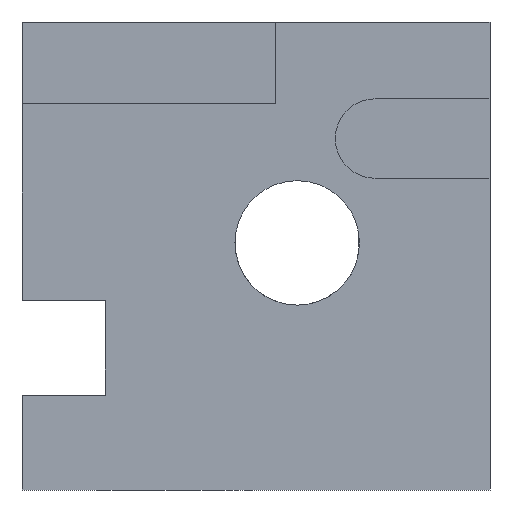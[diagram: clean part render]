
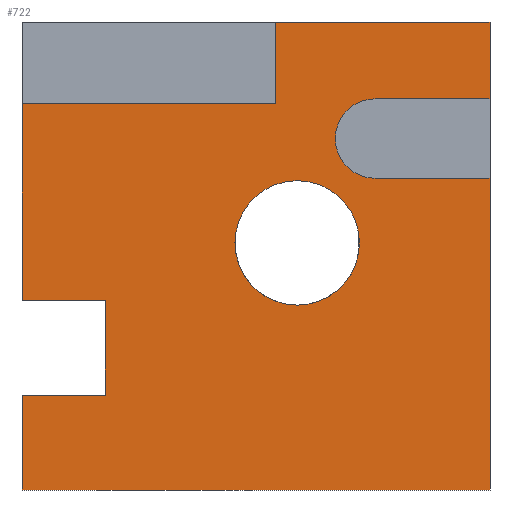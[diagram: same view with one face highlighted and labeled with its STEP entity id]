
A CAD part, front view. The second image highlights one B-rep face of the part: STEP entity #722.
In plain terms, the highlighted planar face has unit normal (0, -1, 0).
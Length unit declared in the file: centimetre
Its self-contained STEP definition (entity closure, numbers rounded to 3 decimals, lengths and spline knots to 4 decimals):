
#5 = VECTOR ( 'NONE', #1172, 100. ) ;
#16 = VERTEX_POINT ( 'NONE', #298 ) ;
#44 = CARTESIAN_POINT ( 'NONE',  ( 0., 0., 825.7108 ) ) ;
#58 = DIRECTION ( 'NONE',  ( -1., 0., 0. ) ) ;
#60 = LINE ( 'NONE', #827, #79 ) ;
#77 = CIRCLE ( 'NONE', #523, 84.8997 ) ;
#79 = VECTOR ( 'NONE', #381, 100. ) ;
#80 = VERTEX_POINT ( 'NONE', #551 ) ;
#87 = VERTEX_POINT ( 'NONE', #895 ) ;
#91 = ORIENTED_EDGE ( 'NONE', *, *, #508, .F. ) ;
#125 = CARTESIAN_POINT ( 'NONE',  ( 542.5318, 0., 825.7108 ) ) ;
#142 = DIRECTION ( 'NONE',  ( -1., 0., 0. ) ) ;
#145 = VERTEX_POINT ( 'NONE', #211 ) ;
#173 = LINE ( 'NONE', #570, #919 ) ;
#185 = AXIS2_PLACEMENT_3D ( 'NONE', #896, #1201, #552 ) ;
#191 = CARTESIAN_POINT ( 'NONE',  ( 542.5318, 0., 1000. ) ) ;
#211 = CARTESIAN_POINT ( 'NONE',  ( 0., 0., 0. ) ) ;
#222 = DIRECTION ( 'NONE',  ( 0., 0., -1. ) ) ;
#234 = FACE_BOUND ( 'NONE', #891, .T. ) ;
#235 = VERTEX_POINT ( 'NONE', #704 ) ;
#255 = CARTESIAN_POINT ( 'NONE',  ( 1000., 0., 666.0716 ) ) ;
#264 = EDGE_CURVE ( 'NONE', #391, #235, #812, .T. ) ;
#266 = ORIENTED_EDGE ( 'NONE', *, *, #264, .F. ) ;
#267 = ORIENTED_EDGE ( 'NONE', *, *, #314, .T. ) ;
#278 = ORIENTED_EDGE ( 'NONE', *, *, #521, .F. ) ;
#280 = LINE ( 'NONE', #1154, #1048 ) ;
#286 = VERTEX_POINT ( 'NONE', #44 ) ;
#291 = ORIENTED_EDGE ( 'NONE', *, *, #1001, .T. ) ;
#295 = DIRECTION ( 'NONE',  ( 0., 0., -1. ) ) ;
#298 = CARTESIAN_POINT ( 'NONE',  ( 0., 0., 202.6033 ) ) ;
#301 = EDGE_CURVE ( 'NONE', #235, #1178, #77, .T. ) ;
#304 = VERTEX_POINT ( 'NONE', #351 ) ;
#314 = EDGE_CURVE ( 'NONE', #80, #286, #1095, .T. ) ;
#318 = VECTOR ( 'NONE', #142, 100. ) ;
#320 = VERTEX_POINT ( 'NONE', #556 ) ;
#351 = CARTESIAN_POINT ( 'NONE',  ( 588.0066, 0., 660.9319 ) ) ;
#381 = DIRECTION ( 'NONE',  ( 1., 0., 0. ) ) ;
#391 = VERTEX_POINT ( 'NONE', #782 ) ;
#393 = LINE ( 'NONE', #1021, #1020 ) ;
#398 = ORIENTED_EDGE ( 'NONE', *, *, #1064, .T. ) ;
#413 = LINE ( 'NONE', #433, #5 ) ;
#433 = CARTESIAN_POINT ( 'NONE',  ( 1000., 0., 1000. ) ) ;
#457 = ORIENTED_EDGE ( 'NONE', *, *, #530, .T. ) ;
#464 = LINE ( 'NONE', #1232, #969 ) ;
#465 = CARTESIAN_POINT ( 'NONE',  ( 0., 0., 0. ) ) ;
#474 = DIRECTION ( 'NONE',  ( 0., 0., 1. ) ) ;
#482 = CARTESIAN_POINT ( 'NONE',  ( 754.2759, 0., 666.0716 ) ) ;
#483 = EDGE_CURVE ( 'NONE', #1178, #823, #1361, .T. ) ;
#489 = CARTESIAN_POINT ( 'NONE',  ( 754.2759, 0., 666.0716 ) ) ;
#491 = CARTESIAN_POINT ( 'NONE',  ( 754.2759, 0., 750.9713 ) ) ;
#492 = AXIS2_PLACEMENT_3D ( 'NONE', #1128, #575, #1014 ) ;
#508 = EDGE_CURVE ( 'NONE', #619, #559, #280, .T. ) ;
#521 = EDGE_CURVE ( 'NONE', #559, #391, #173, .T. ) ;
#523 = AXIS2_PLACEMENT_3D ( 'NONE', #491, #933, #222 ) ;
#530 = EDGE_CURVE ( 'NONE', #145, #87, #595, .T. ) ;
#551 = CARTESIAN_POINT ( 'NONE',  ( 542.5318, 0., 825.7108 ) ) ;
#552 = DIRECTION ( 'NONE',  ( 0., 0., 1. ) ) ;
#556 = CARTESIAN_POINT ( 'NONE',  ( 588.0066, 0., 394.9257 ) ) ;
#559 = VERTEX_POINT ( 'NONE', #701 ) ;
#570 = CARTESIAN_POINT ( 'NONE',  ( 1000., 0., 1000. ) ) ;
#575 = DIRECTION ( 'NONE',  ( 0., 1., 0. ) ) ;
#577 = AXIS2_PLACEMENT_3D ( 'NONE', #986, #1197, #1315 ) ;
#593 = DIRECTION ( 'NONE',  ( 0., 0., -1. ) ) ;
#595 = LINE ( 'NONE', #465, #771 ) ;
#600 = LINE ( 'NONE', #1353, #906 ) ;
#616 = ORIENTED_EDGE ( 'NONE', *, *, #483, .F. ) ;
#618 = VECTOR ( 'NONE', #797, 100. ) ;
#619 = VERTEX_POINT ( 'NONE', #191 ) ;
#624 = EDGE_CURVE ( 'NONE', #823, #87, #413, .T. ) ;
#626 = ORIENTED_EDGE ( 'NONE', *, *, #301, .F. ) ;
#662 = VECTOR ( 'NONE', #1170, 100. ) ;
#676 = CIRCLE ( 'NONE', #577, 133.0031 ) ;
#701 = CARTESIAN_POINT ( 'NONE',  ( 1000., 0., 1000. ) ) ;
#703 = VECTOR ( 'NONE', #295, 100. ) ;
#704 = CARTESIAN_POINT ( 'NONE',  ( 754.2759, 0., 835.8709 ) ) ;
#718 = DIRECTION ( 'NONE',  ( 0., 0., -1. ) ) ;
#722 = ADVANCED_FACE ( 'NONE', ( #234, #1207 ), #1319, .F. ) ;
#732 = LINE ( 'NONE', #1189, #662 ) ;
#739 = LINE ( 'NONE', #1393, #703 ) ;
#755 = VERTEX_POINT ( 'NONE', #1228 ) ;
#771 = VECTOR ( 'NONE', #1258, 100. ) ;
#773 = DIRECTION ( 'NONE',  ( -1., 0., 0. ) ) ;
#782 = CARTESIAN_POINT ( 'NONE',  ( 1000., 0., 835.8709 ) ) ;
#797 = DIRECTION ( 'NONE',  ( 1., 0., 0. ) ) ;
#812 = LINE ( 'NONE', #1122, #318 ) ;
#823 = VERTEX_POINT ( 'NONE', #255 ) ;
#827 = CARTESIAN_POINT ( 'NONE',  ( 0., 0., 404.8661 ) ) ;
#886 = EDGE_CURVE ( 'NONE', #755, #1286, #60, .T. ) ;
#891 = EDGE_LOOP ( 'NONE', ( #291, #398 ) ) ;
#895 = CARTESIAN_POINT ( 'NONE',  ( 1000., 0., 0. ) ) ;
#896 = CARTESIAN_POINT ( 'NONE',  ( 0., 0., 1000. ) ) ;
#906 = VECTOR ( 'NONE', #593, 100. ) ;
#917 = EDGE_CURVE ( 'NONE', #286, #755, #732, .T. ) ;
#919 = VECTOR ( 'NONE', #718, 100. ) ;
#933 = DIRECTION ( 'NONE',  ( 0., -1., 0. ) ) ;
#963 = VERTEX_POINT ( 'NONE', #1289 ) ;
#969 = VECTOR ( 'NONE', #58, 100. ) ;
#978 = EDGE_CURVE ( 'NONE', #80, #619, #393, .T. ) ;
#986 = CARTESIAN_POINT ( 'NONE',  ( 588.0066, 0., 527.9288 ) ) ;
#990 = ORIENTED_EDGE ( 'NONE', *, *, #917, .T. ) ;
#1001 = EDGE_CURVE ( 'NONE', #304, #320, #1039, .T. ) ;
#1003 = ORIENTED_EDGE ( 'NONE', *, *, #1144, .T. ) ;
#1014 = DIRECTION ( 'NONE',  ( 0., 0., 1. ) ) ;
#1020 = VECTOR ( 'NONE', #474, 100. ) ;
#1021 = CARTESIAN_POINT ( 'NONE',  ( 542.5318, 0., 825.7108 ) ) ;
#1030 = DIRECTION ( 'NONE',  ( 1., 0., 0. ) ) ;
#1039 = CIRCLE ( 'NONE', #492, 133.0031 ) ;
#1048 = VECTOR ( 'NONE', #1030, 100. ) ;
#1064 = EDGE_CURVE ( 'NONE', #320, #304, #676, .T. ) ;
#1095 = LINE ( 'NONE', #125, #1323 ) ;
#1121 = EDGE_CURVE ( 'NONE', #1286, #963, #600, .T. ) ;
#1122 = CARTESIAN_POINT ( 'NONE',  ( 1000., 0., 835.8709 ) ) ;
#1123 = CARTESIAN_POINT ( 'NONE',  ( 177.6158, 0., 404.8661 ) ) ;
#1128 = CARTESIAN_POINT ( 'NONE',  ( 588.0066, 0., 527.9288 ) ) ;
#1144 = EDGE_CURVE ( 'NONE', #963, #16, #464, .T. ) ;
#1154 = CARTESIAN_POINT ( 'NONE',  ( 0., 0., 1000. ) ) ;
#1170 = DIRECTION ( 'NONE',  ( 0., 0., -1. ) ) ;
#1172 = DIRECTION ( 'NONE',  ( 0., 0., -1. ) ) ;
#1178 = VERTEX_POINT ( 'NONE', #482 ) ;
#1185 = ORIENTED_EDGE ( 'NONE', *, *, #886, .T. ) ;
#1189 = CARTESIAN_POINT ( 'NONE',  ( 0., 0., 1000. ) ) ;
#1197 = DIRECTION ( 'NONE',  ( 0., 1., 0. ) ) ;
#1201 = DIRECTION ( 'NONE',  ( 0., 1., 0. ) ) ;
#1207 = FACE_OUTER_BOUND ( 'NONE', #1404, .T. ) ;
#1228 = CARTESIAN_POINT ( 'NONE',  ( 0., 0., 404.8661 ) ) ;
#1232 = CARTESIAN_POINT ( 'NONE',  ( 0., 0., 202.6033 ) ) ;
#1242 = ORIENTED_EDGE ( 'NONE', *, *, #1373, .T. ) ;
#1258 = DIRECTION ( 'NONE',  ( 1., 0., 0. ) ) ;
#1286 = VERTEX_POINT ( 'NONE', #1123 ) ;
#1287 = ORIENTED_EDGE ( 'NONE', *, *, #624, .F. ) ;
#1289 = CARTESIAN_POINT ( 'NONE',  ( 177.6158, 0., 202.6033 ) ) ;
#1315 = DIRECTION ( 'NONE',  ( 0., 0., 1. ) ) ;
#1319 = PLANE ( 'NONE',  #185 ) ;
#1323 = VECTOR ( 'NONE', #773, 100. ) ;
#1330 = ORIENTED_EDGE ( 'NONE', *, *, #978, .F. ) ;
#1343 = ORIENTED_EDGE ( 'NONE', *, *, #1121, .T. ) ;
#1353 = CARTESIAN_POINT ( 'NONE',  ( 177.6158, 0., 202.6033 ) ) ;
#1361 = LINE ( 'NONE', #489, #618 ) ;
#1373 = EDGE_CURVE ( 'NONE', #16, #145, #739, .T. ) ;
#1393 = CARTESIAN_POINT ( 'NONE',  ( 0., 0., 1000. ) ) ;
#1404 = EDGE_LOOP ( 'NONE', ( #1343, #1003, #1242, #457, #1287, #616, #626, #266, #278, #91, #1330, #267, #990, #1185 ) ) ;
